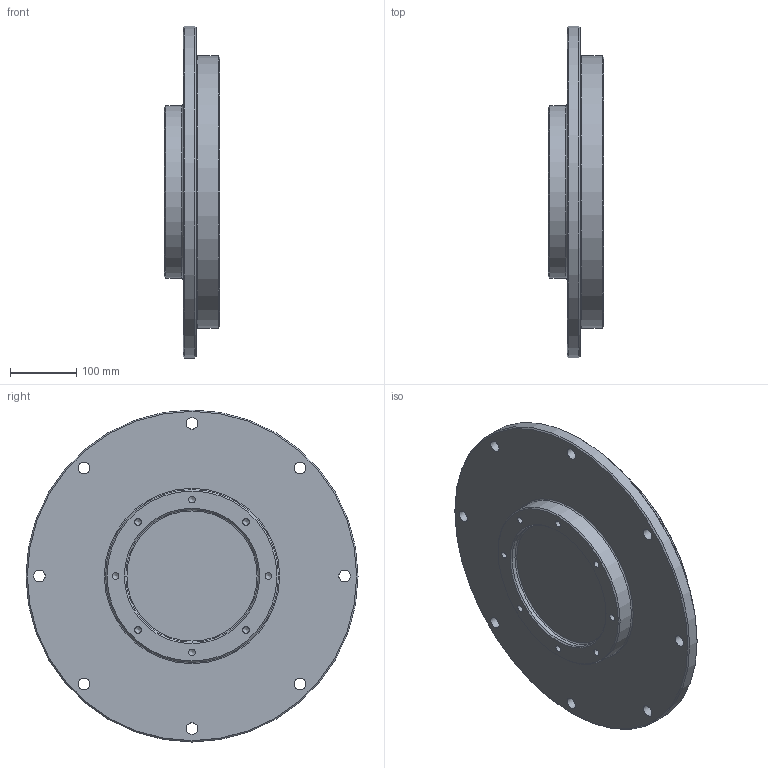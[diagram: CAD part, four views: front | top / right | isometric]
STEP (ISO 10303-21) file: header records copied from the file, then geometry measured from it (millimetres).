
FILE_DESCRIPTION(/* description */ (''),/* implementation_level */ '2;1');
FILE_NAME(/* name */ 'C:\Users\jbart\OneDrive\Plocha\Nová složka\3D modely - stp\Víčko II.stp',/* time_stamp */ '2025-05-15T16:52:36+02:00',/* author */ ('jbart'),/* organization */ (''),/* preprocessor_version */ 'ST-DEVELOPER v18.1',/* originating_system */ 'Autodesk Inventor 2022',/* authorisation */ '');
FILE_SCHEMA (('AUTOMOTIVE_DESIGN { 1 0 10303 214 3 1 1 }'));
Length unit declared in the file: millimetre
Products named in the file (1): Víčko II
Bounding box: 83 x 500 x 500 mm (x, y, z)
Volume: 5770125.6 mm3; surface area: 542167.3 mm2
Topology: 1 solids, 1 shells, 53 faces, 127 edges, 82 vertices
Faces by surface type: cylinder 23, cone 16, plane 8, torus 6
Full cylindrical faces by diameter (mm): 10.106 x8, 17.5 x8, 70 x1, 80 x1, 200 x1, 260 x1, 370 x1, 410 x1, 500 x1
Entity records: 1610 total; most frequent: DIRECTION 307, CARTESIAN_POINT 255, ORIENTED_EDGE 238, AXIS2_PLACEMENT_3D 134, EDGE_CURVE 119, EDGE_LOOP 83, VERTEX_POINT 82, CIRCLE 80
